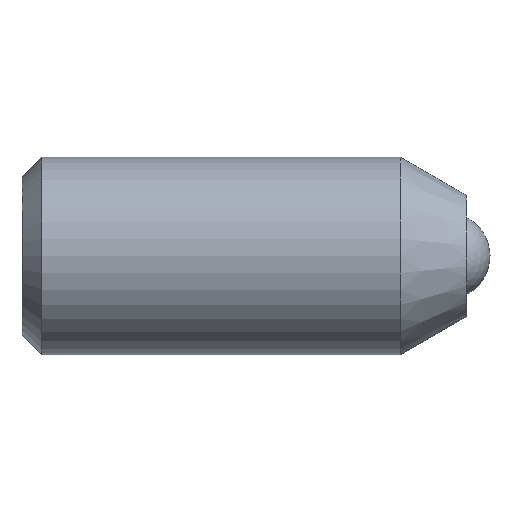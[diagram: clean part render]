
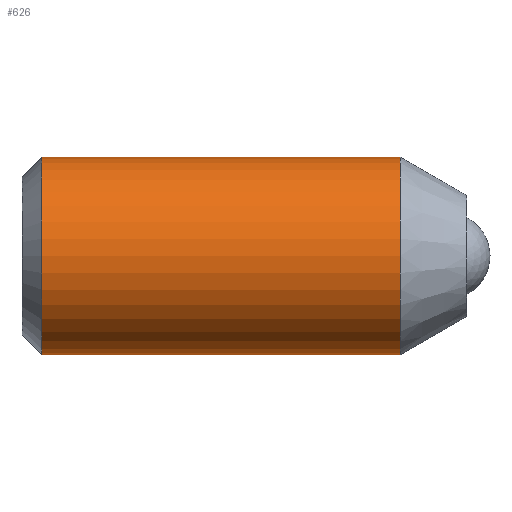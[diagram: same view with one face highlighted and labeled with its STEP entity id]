
A CAD part, top view. The second image highlights one B-rep face of the part: STEP entity #626.
In plain terms, the highlighted cylindrical face has radius 4 mm (diameter 8 mm), a partial arc.
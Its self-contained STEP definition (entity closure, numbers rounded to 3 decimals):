
#23 = VECTOR ( 'NONE', #255, 1000. ) ;
#49 = CARTESIAN_POINT ( 'NONE',  ( -18.15, 4., 0. ) ) ;
#72 = ORIENTED_EDGE ( 'NONE', *, *, #166, .T. ) ;
#77 = DIRECTION ( 'NONE',  ( 1., 0., 0. ) ) ;
#89 = VECTOR ( 'NONE', #659, 1000. ) ;
#112 = CARTESIAN_POINT ( 'NONE',  ( -3.635, 4., 0. ) ) ;
#166 = EDGE_CURVE ( 'NONE', #249, #627, #232, .T. ) ;
#167 = CARTESIAN_POINT ( 'NONE',  ( -18.15, 0., 0. ) ) ;
#173 = EDGE_CURVE ( 'NONE', #214, #249, #432, .T. ) ;
#188 = EDGE_CURVE ( 'NONE', #214, #573, #562, .T. ) ;
#189 = ORIENTED_EDGE ( 'NONE', *, *, #173, .T. ) ;
#191 = CARTESIAN_POINT ( 'NONE',  ( 0., 4., 0. ) ) ;
#214 = VERTEX_POINT ( 'NONE', #49 ) ;
#232 = LINE ( 'NONE', #437, #89 ) ;
#244 = DIRECTION ( 'NONE',  ( 0., 1., 0. ) ) ;
#249 = VERTEX_POINT ( 'NONE', #670 ) ;
#255 = DIRECTION ( 'NONE',  ( 1., 0., 0. ) ) ;
#294 = CIRCLE ( 'NONE', #674, 4. ) ;
#296 = CARTESIAN_POINT ( 'NONE',  ( -3.635, -4., 0. ) ) ;
#325 = DIRECTION ( 'NONE',  ( 0., 1., 0. ) ) ;
#352 = AXIS2_PLACEMENT_3D ( 'NONE', #446, #77, #244 ) ;
#426 = EDGE_CURVE ( 'NONE', #573, #627, #294, .T. ) ;
#432 = CIRCLE ( 'NONE', #443, 4. ) ;
#437 = CARTESIAN_POINT ( 'NONE',  ( 0., -4., 0. ) ) ;
#443 = AXIS2_PLACEMENT_3D ( 'NONE', #167, #614, #570 ) ;
#446 = CARTESIAN_POINT ( 'NONE',  ( 0., 0., 0. ) ) ;
#460 = FACE_OUTER_BOUND ( 'NONE', #695, .T. ) ;
#480 = ORIENTED_EDGE ( 'NONE', *, *, #188, .F. ) ;
#489 = DIRECTION ( 'NONE',  ( 1., 0., 0. ) ) ;
#509 = CYLINDRICAL_SURFACE ( 'NONE', #352, 4. ) ;
#558 = ORIENTED_EDGE ( 'NONE', *, *, #426, .F. ) ;
#562 = LINE ( 'NONE', #191, #23 ) ;
#570 = DIRECTION ( 'NONE',  ( 0., 1., 0. ) ) ;
#573 = VERTEX_POINT ( 'NONE', #112 ) ;
#598 = CARTESIAN_POINT ( 'NONE',  ( -3.635, 0., 0. ) ) ;
#614 = DIRECTION ( 'NONE',  ( 1., 0., 0. ) ) ;
#626 = ADVANCED_FACE ( 'NONE', ( #460 ), #509, .T. ) ;
#627 = VERTEX_POINT ( 'NONE', #296 ) ;
#659 = DIRECTION ( 'NONE',  ( 1., 0., 0. ) ) ;
#670 = CARTESIAN_POINT ( 'NONE',  ( -18.15, -4., 0. ) ) ;
#674 = AXIS2_PLACEMENT_3D ( 'NONE', #598, #489, #325 ) ;
#695 = EDGE_LOOP ( 'NONE', ( #189, #72, #558, #480 ) ) ;
